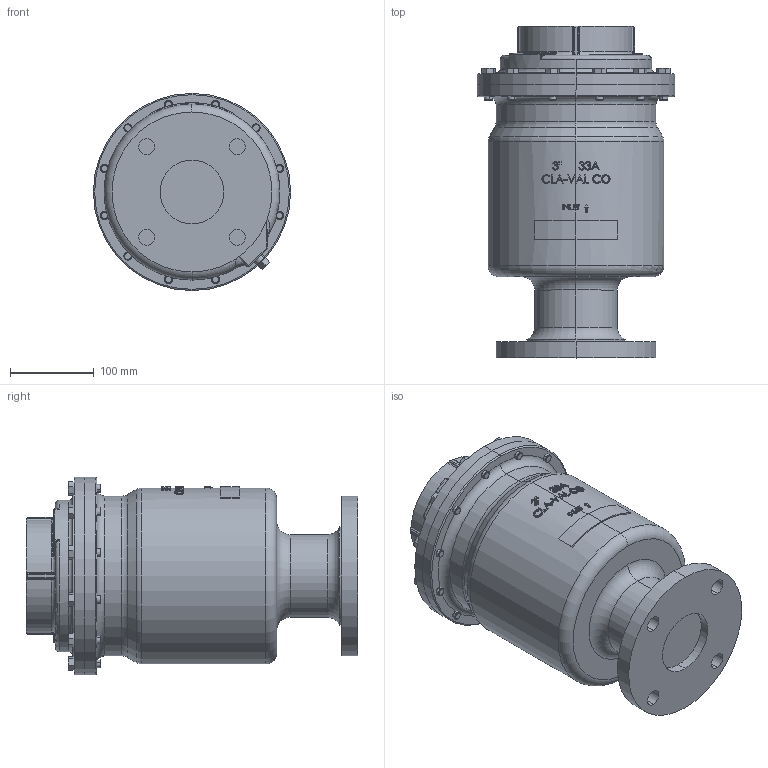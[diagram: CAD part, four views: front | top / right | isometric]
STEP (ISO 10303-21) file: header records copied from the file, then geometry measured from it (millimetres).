
FILE_DESCRIPTION (( 'STEP AP203' ), '1' );
FILE_NAME ('3in 33A Flat Face.STEP', '2017-06-27T18:12:10', ( '' ), ( '' ), 'SwSTEP 2.0', 'SolidWorks 2017', '' );
FILE_SCHEMA (( 'CONFIG_CONTROL_DESIGN' ));
Length unit declared in the file: inch
Products named in the file (5): Bolt .375-16 UNC  (67605)_1.25   67605-07B; .250 NPT SQ HD PIPE PLUG (67660)_18-8 SST; 3in 33A Flat Face; 207181 3in BODY FLANGED 150A 33A_MONEL; 208405 3in COVER 33A_SUPER DUPLEX
Assembly tree (15 placements, depth 2):
  3in 33A Flat Face
    207181 3in BODY FLANGED 150A 33A_MONEL
    208405 3in COVER 33A_SUPER DUPLEX
    Bolt .375-16 UNC  (67605)_1.25   67605-07B  x12
    .250 NPT SQ HD PIPE PLUG (67660)_18-8 SST
Bounding box: 234.95 x 395.22 x 234.95 mm (x, y, z)
Volume: 10453606.6 mm3; surface area: 468583.6 mm2
Topology: 15 solids, 15 shells, 1008 faces, 2459 edges, 1513 vertices
Faces by surface type: plane 346, cylinder 256, bspline 238, cone 133, torus 29, sphere 6
Entity records: 48666 total; most frequent: CARTESIAN_POINT 30443, ORIENTED_EDGE 4006, DIRECTION 3035, EDGE_CURVE 2003, VERTEX_POINT 1249, AXIS2_PLACEMENT_3D 1186, EDGE_LOOP 892, FACE_OUTER_BOUND 799
